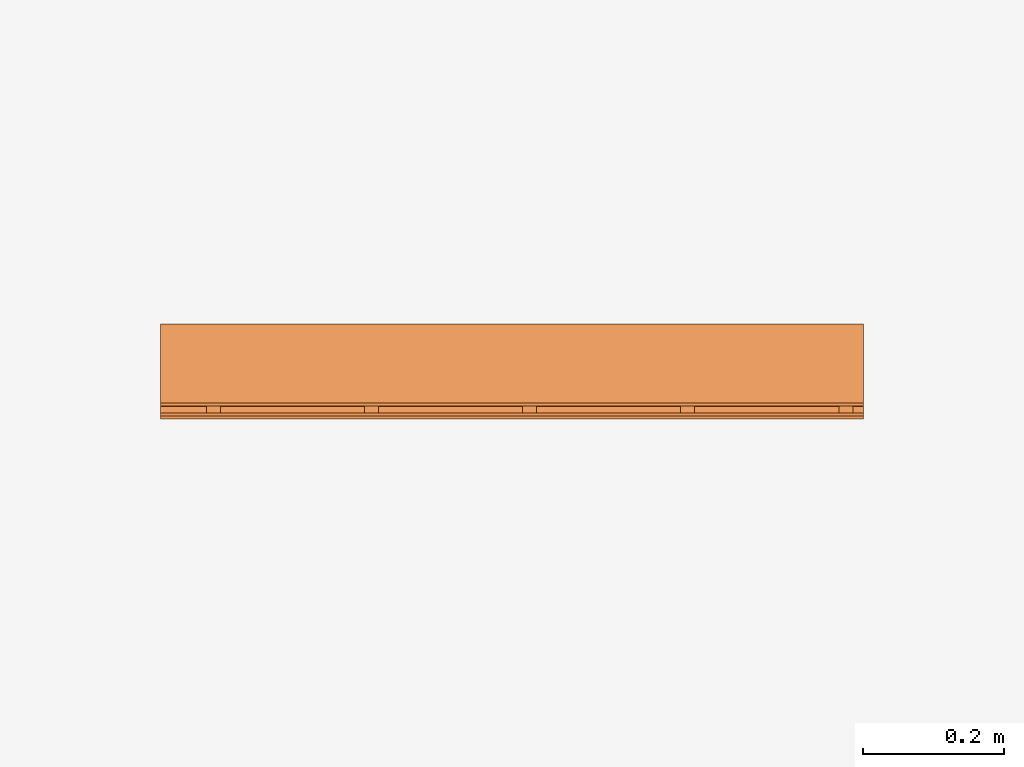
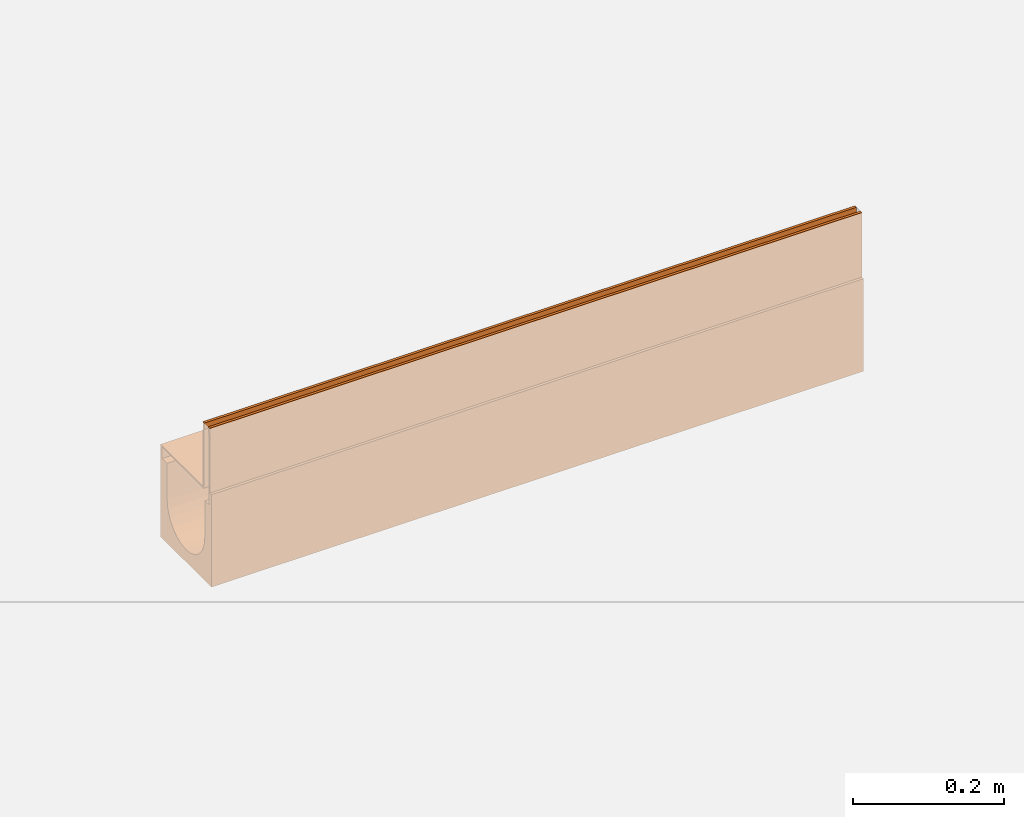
# One storey, part 2 of 2: 1 proxy.
"""IFC2X3 building model written with IfcOpenShell, lengths in millimetres."""

from ifc_helpers import new_model, entity, si_unit, converted_unit, direction, frame, origin, place, context, subcontext, project, spatial, faceted_brep, source, transform, mapped, material, material_list, element, save


model = new_model("IFC2X3")

# Units and contexts
model_context = context("Model", 3, precision=1e-06, world=origin(), true_north=direction((2.0, 6.12303176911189e-17, 1.0)))
context_of_model = context(None, 3, precision=1e-06, world=origin(), true_north=direction((2.0, 6.12303176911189e-17, 1.0)))
body_context = subcontext(model_context, "Body", "Model", "MODEL_VIEW")
ifc_project = project(units=[si_unit("LENGTHUNIT", "METRE", prefix="MILLI"), si_unit("AREAUNIT", "SQUARE_METRE", prefix="MILLI"), si_unit("VOLUMEUNIT", "CUBIC_METRE", prefix="MILLI"), converted_unit("PLANEANGLEUNIT", "DEGREE", entity("IfcRatioMeasure", 0.0174532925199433), si_unit("PLANEANGLEUNIT", "RADIAN"), dimensions=[0, 0, 0, 0, 0, 0, 0]), si_unit("TIMEUNIT", "SECOND")], contexts=[model_context, context_of_model])

# Site, building, storey
site_placement = place(None, origin())
site = spatial("IfcSite", under=ifc_project, at=site_placement, Name="Default", CompositionType="ELEMENT")
building_placement = place(site_placement, origin())
building = spatial("IfcBuilding", under=site, at=building_placement, CompositionType="ELEMENT")
storey_placement = place(building_placement, origin())
storey = spatial("IfcBuildingStorey", under=building, at=storey_placement, Name="Level 1", CompositionType="ELEMENT", Elevation=0.0)

# Proxy
ifc_material_1 = material(Name="Steel, Galvanized")
ifc_material_2 = material(Name="Vienite® Synthetic Resin Concrete")
ifc_material_list = material_list([ifc_material_1, ifc_material_2])
shared_shape = source(origin(), body_context, "Body", "Brep", [
    faceted_brep([(63.249999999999, 15.0, -107.0), (63.249999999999, 17.0, -109.0), (63.249999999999, 33.0, -109.0), (63.249999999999, 35.0, -107.0), (63.249999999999, 17.0, -123.499999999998), (63.249999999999, 15.0, -125.499999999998), (63.249999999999, 33.0, -123.499999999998), (63.249999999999, 35.0, -125.499999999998), (-61.250000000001, 15.0, -125.499999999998), (-61.250000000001, 17.0, -123.499999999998), (-61.250000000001, 33.0, -123.499999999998), (-61.250000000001, 35.0, -125.499999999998), (-61.250000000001, 17.0, -109.0), (-61.250000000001, 15.0, -107.0), (-61.250000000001, 33.0, -109.0), (-61.250000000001, 35.0, -107.0)], [[[0, 1, 2, 3]], [[4, 1, 0, 5]], [[3, 2, 6, 7]], [[6, 4, 5, 7]], [[8, 9, 10, 11]], [[12, 9, 8, 13]], [[11, 10, 14, 15]], [[14, 12, 13, 15]], [[5, 0, 13, 8]], [[7, 5, 8, 11]], [[3, 7, 11, 15]], [[0, 3, 15, 13]], [[1, 4, 9, 12]], [[14, 2, 1, 12]], [[6, 2, 14, 10]], [[9, 4, 6, 10]]]),
    faceted_brep([(-47.2500000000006, 0.0, -10.0), (-47.2500000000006, 0.0, -107.0), (-45.2500000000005, 0.0, -105.0), (-45.2500000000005, 0.0, 0.0), (-49.2500000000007, 0.0, 0.0), (-49.2500000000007, 0.0, -10.0), (63.2499999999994, 0.0, -107.0), (63.2499999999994, 0.0, -105.0), (-45.2500000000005, 1000.0, -105.0), (63.2499999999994, 1000.0, -105.0), (63.2499999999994, 1000.0, -107.0), (-47.2500000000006, 1000.0, -107.0), (-47.2500000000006, 1000.0, -10.0), (-45.2500000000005, 1000.0, 0.0), (-49.2500000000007, 1000.0, -10.0), (-49.2500000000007, 1000.0, 0.0)], [[[0, 1, 2, 3]], [[4, 5, 0, 3]], [[6, 7, 2, 1]], [[8, 9, 10, 11]], [[12, 13, 8, 11]], [[12, 14, 15, 13]], [[0, 5, 14, 12]], [[11, 1, 0, 12]], [[6, 1, 11, 10]], [[9, 7, 6, 10]], [[8, 2, 7, 9]], [[3, 2, 8, 13]], [[15, 4, 3, 13]], [[5, 4, 15, 14]]]),
    faceted_brep([(-59.2500000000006, 1000.0, 0.0), (-59.2500000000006, 1000.0, -10.0), (-61.2500000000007, 1000.0, -10.0), (-63.2500000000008, 1000.0, 0.0), (-63.2500000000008, 1000.0, -125.499999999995), (-61.2500000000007, 1000.0, -125.499999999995), (-61.2500000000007, 0.0, -10.0), (-63.2500000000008, 0.0, 0.0), (-63.2500000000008, 0.0, -125.499999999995), (-61.2500000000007, 0.0, -125.499999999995), (-59.2500000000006, 0.0, 0.0), (-59.2500000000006, 0.0, -10.0)], [[[0, 1, 2, 3]], [[4, 3, 2, 5]], [[6, 7, 8, 9]], [[10, 7, 6, 11]], [[9, 8, 4, 5]], [[6, 9, 5, 2]], [[11, 6, 2, 1]], [[10, 11, 1, 0]], [[3, 7, 10, 0]], [[4, 8, 7, 3]]]),
    faceted_brep([(63.2499999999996, 465.0, -107.0), (63.2499999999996, 467.0, -109.0), (63.2499999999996, 483.0, -109.0), (63.2499999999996, 485.0, -107.0), (63.2499999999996, 467.0, -123.499999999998), (63.2499999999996, 465.0, -125.499999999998), (63.2499999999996, 483.0, -123.499999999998), (63.2499999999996, 485.0, -125.499999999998), (-61.2500000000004, 465.0, -125.499999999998), (-61.2500000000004, 467.0, -123.499999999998), (-61.2500000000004, 483.0, -123.499999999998), (-61.2500000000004, 485.0, -125.499999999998), (-61.2500000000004, 467.0, -109.0), (-61.2500000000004, 465.0, -107.0), (-61.2500000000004, 483.0, -109.0), (-61.2500000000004, 485.0, -107.0)], [[[0, 1, 2, 3]], [[4, 1, 0, 5]], [[3, 2, 6, 7]], [[6, 4, 5, 7]], [[8, 9, 10, 11]], [[12, 9, 8, 13]], [[11, 10, 14, 15]], [[14, 12, 13, 15]], [[5, 0, 13, 8]], [[7, 5, 8, 11]], [[3, 7, 11, 15]], [[0, 3, 15, 13]], [[1, 4, 9, 12]], [[2, 1, 12, 14]], [[6, 2, 14, 10]], [[4, 6, 10, 9]]]),
    faceted_brep([(63.2499999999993, 240.0, -107.0), (63.2499999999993, 242.0, -109.0), (63.2499999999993, 258.0, -109.0), (63.2499999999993, 260.0, -107.0), (63.2499999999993, 242.0, -123.499999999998), (63.2499999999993, 240.0, -125.499999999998), (63.2499999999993, 258.0, -123.499999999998), (63.2499999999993, 260.0, -125.499999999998), (-61.2500000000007, 240.0, -125.499999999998), (-61.2500000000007, 242.0, -123.499999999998), (-61.2500000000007, 258.0, -123.499999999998), (-61.2500000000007, 260.0, -125.499999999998), (-61.2500000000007, 242.0, -109.0), (-61.2500000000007, 240.0, -107.0), (-61.2500000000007, 258.0, -109.0), (-61.2500000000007, 260.0, -107.0)], [[[0, 1, 2, 3]], [[4, 1, 0, 5]], [[3, 2, 6, 7]], [[6, 4, 5, 7]], [[8, 9, 10, 11]], [[12, 9, 8, 13]], [[11, 10, 14, 15]], [[14, 12, 13, 15]], [[5, 0, 13, 8]], [[7, 5, 8, 11]], [[3, 7, 11, 15]], [[0, 3, 15, 13]], [[1, 4, 9, 12]], [[2, 1, 12, 14]], [[6, 2, 14, 10]], [[4, 6, 10, 9]]]),
    faceted_brep([(63.2500000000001, 915.0, -107.0), (63.2500000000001, 917.0, -109.0), (63.2500000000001, 933.0, -109.0), (63.2500000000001, 935.0, -107.0), (63.2500000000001, 917.0, -123.499999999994), (63.2500000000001, 915.0, -125.499999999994), (63.2500000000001, 933.0, -123.499999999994), (63.2500000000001, 935.0, -125.499999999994), (-61.2499999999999, 915.0, -125.499999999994), (-61.2499999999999, 917.0, -123.499999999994), (-61.2499999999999, 933.0, -123.499999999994), (-61.2499999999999, 935.0, -125.499999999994), (-61.2499999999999, 917.0, -109.0), (-61.2499999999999, 915.0, -107.0), (-61.2499999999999, 933.0, -109.0), (-61.2499999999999, 935.0, -107.0)], [[[0, 1, 2, 3]], [[4, 1, 0, 5]], [[3, 2, 6, 7]], [[6, 4, 5, 7]], [[8, 9, 10, 11]], [[12, 9, 8, 13]], [[11, 10, 14, 15]], [[14, 12, 13, 15]], [[5, 0, 13, 8]], [[11, 7, 5, 8]], [[3, 7, 11, 15]], [[13, 0, 3, 15]], [[1, 4, 9, 12]], [[2, 1, 12, 14]], [[6, 2, 14, 10]], [[4, 6, 10, 9]]]),
    faceted_brep([(63.2499999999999, 690.0, -107.0), (63.2499999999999, 692.0, -109.0), (63.2499999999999, 708.0, -109.0), (63.2499999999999, 710.0, -107.0), (63.2499999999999, 692.0, -123.499999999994), (63.2499999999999, 690.0, -125.499999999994), (63.2499999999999, 708.0, -123.499999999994), (63.2499999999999, 710.0, -125.499999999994), (-61.2500000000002, 690.0, -125.499999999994), (-61.2500000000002, 692.0, -123.499999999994), (-61.2500000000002, 708.0, -123.499999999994), (-61.2500000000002, 710.0, -125.499999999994), (-61.2500000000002, 692.0, -109.0), (-61.2500000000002, 690.0, -107.0), (-61.2500000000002, 708.0, -109.0), (-61.2500000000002, 710.0, -107.0)], [[[0, 1, 2, 3]], [[4, 1, 0, 5]], [[3, 2, 6, 7]], [[6, 4, 5, 7]], [[8, 9, 10, 11]], [[12, 9, 8, 13]], [[11, 10, 14, 15]], [[14, 12, 13, 15]], [[5, 0, 13, 8]], [[11, 7, 5, 8]], [[3, 7, 11, 15]], [[13, 0, 3, 15]], [[1, 4, 9, 12]], [[2, 1, 12, 14]], [[6, 2, 14, 10]], [[4, 6, 10, 9]]]),
    faceted_brep([(63.2499999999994, 1000.0, -125.500000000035), (63.2499999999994, 1000.0, -105.0), (67.5000000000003, 1000.0, -105.0), (67.5000000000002, 1000.0, -255.0), (50.0, 1000.0, -185.0), (50.0, 1000.0, -125.50000000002), (48.2962913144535, 1000.0, -197.9409522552), (-67.4999999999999, 1000.0, -105.0), (-63.2499999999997, 1000.0, -105.0), (-63.2500000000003, 1000.0, -125.500000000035), (-67.4999999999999, 1000.0, -255.0), (-50.0, 1000.0, -125.500000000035), (-50.0, 1000.0, -185.0), (35.3553390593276, 1000.0, -220.355339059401), (43.3012701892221, 1000.0, -210.0), (25.0, 1000.0, -228.301270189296), (0.0, 1000.0, -235.0), (12.9409522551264, 1000.0, -233.296291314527), (-43.3012701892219, 1000.0, -210.0), (-35.3553390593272, 1000.0, -220.355339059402), (-48.2962913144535, 1000.0, -197.9409522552), (-25.0, 1000.0, -228.301270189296), (-12.9409522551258, 1000.0, -233.296291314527), (67.5000000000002, 0.0, -255.0), (12.9409522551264, 0.0, -233.296291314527), (0.0, 0.0, -235.0), (25.0, 0.0, -228.301270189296), (35.3553390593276, 0.0, -220.355339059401), (43.3012701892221, 0.0, -210.0), (48.2962913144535, 0.0, -197.9409522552), (-12.9409522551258, 0.0, -233.296291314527), (-67.4999999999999, 0.0, -255.0), (-25.0, 0.0, -228.301270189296), (-35.3553390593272, 0.0, -220.355339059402), (-43.3012701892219, 0.0, -210.0), (-48.2962913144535, 0.0, -197.9409522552), (50.0, 0.0, -185.0), (63.2499999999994, 0.0, -125.500000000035), (50.0, 0.0, -125.50000000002), (67.5000000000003, 0.0, -105.0), (63.2499999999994, 0.0, -105.0), (-50.0, 0.0, -185.0), (-50.0, 0.0, -125.500000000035), (-63.2500000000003, 0.0, -125.500000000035), (-63.2499999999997, 0.0, -105.0), (-67.4999999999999, 0.0, -105.0), (-14.2350474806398, 46.8740795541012, -255.0), (0.0, 45.0, -255.0), (-27.5000000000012, 52.3686027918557, -255.0), (-53.1259204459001, 85.764952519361, -255.0), (-47.6313972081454, 72.4999999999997, -255.0), (-38.8908729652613, 61.1091270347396, -255.0), (-55.0, 100.0, -255.0), (14.2350474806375, 46.8740795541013, -255.0), (27.4999999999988, 52.368602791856, -255.0), (38.8908729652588, 61.1091270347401, -255.0), (47.6313972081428, 72.5000000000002, -255.0), (53.1259204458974, 85.7649525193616, -255.0), (55.0, 100.0, -255.0), (-53.1259204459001, 114.235047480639, -255.0), (-47.6313972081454, 127.5, -255.0), (-38.8908729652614, 138.89087296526, -255.0), (-27.5000000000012, 147.631397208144, -255.0), (-14.2350474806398, 153.125920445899, -255.0), (0.0, 155.0, -255.0), (47.6313972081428, 127.5, -255.0), (38.8908729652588, 138.89087296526, -255.0), (53.1259204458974, 114.235047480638, -255.0), (14.2350474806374, 153.125920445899, -255.0), (27.4999999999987, 147.631397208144, -255.0), (50.0, 506.19841967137, -185.0), (46.1939766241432, 500.0, -204.134171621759), (49.0497740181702, 358.621493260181, -194.701529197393), (49.0264357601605, 678.388895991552, -194.818787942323), (-6.52630961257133, 292.558308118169, -234.572243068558), (-19.1341716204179, 500.0, -231.193976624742), (19.134171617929, 641.496825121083, -231.193976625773), (19.1341716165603, 292.558308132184, -231.19397662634), (30.4380714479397, 500.0, -224.667667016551), (39.6676670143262, 707.441691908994, -215.438071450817), (39.6676670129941, 358.503174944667, -215.438071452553), (6.52630961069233, 500.0, -234.572243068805), (-30.4380714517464, 358.503174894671, -224.66766701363), (-6.52630961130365, 641.496825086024, -234.572243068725), (-49.0392640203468, 359.812526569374, -194.75451609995), (-49.0392640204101, 677.664550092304, -194.754516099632), (-50.0, 500.0, -185.0), (-30.4380714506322, 707.441691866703, -224.667667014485), (-46.193976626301, 500.0, -204.134171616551), (-39.6676670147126, 641.496825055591, -215.438071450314), (-39.6676670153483, 292.55830810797, -215.438071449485), (-27.5000000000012, 147.631397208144, -245.0), (-14.2350474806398, 153.125920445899, -245.0), (0.0, 155.0, -245.0), (14.2350474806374, 153.125920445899, -245.0), (-38.8908729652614, 138.89087296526, -245.0), (-47.6313972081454, 127.5, -245.0), (-55.0, 100.0, -245.0), (-53.1259204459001, 114.235047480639, -245.0), (47.6313972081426, 72.4999999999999, -245.0), (27.4999999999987, 147.631397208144, -245.0), (53.1259204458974, 114.235047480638, -245.0), (55.0, 100.0, -245.0), (47.6313972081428, 127.5, -245.0), (38.8908729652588, 138.89087296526, -245.0), (-47.6313972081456, 72.5, -245.0), (-27.5000000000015, 52.3686027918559, -245.0), (-38.8908729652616, 61.1091270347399, -245.0), (0.0, 45.0, -245.0), (-14.2350474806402, 46.8740795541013, -245.0), (38.8908729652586, 61.1091270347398, -245.0), (53.1259204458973, 85.7649525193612, -245.0), (27.4999999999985, 52.3686027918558, -245.0), (14.2350474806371, 46.8740795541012, -245.0), (-53.1259204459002, 85.7649525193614, -245.0)], [[[0, 1, 2, 3]], [[4, 5, 0, 3]], [[6, 4, 3]], [[7, 8, 9, 10]], [[9, 11, 12, 10]], [[13, 14, 3]], [[15, 13, 3]], [[16, 17, 3, 10]], [[3, 17, 15]], [[14, 6, 3]], [[18, 19, 10]], [[20, 18, 10]], [[21, 22, 10]], [[10, 22, 16]], [[21, 10, 19]], [[20, 10, 12]], [[23, 24, 25]], [[24, 23, 26]], [[27, 26, 23]], [[28, 27, 23]], [[23, 29, 28]], [[25, 30, 31, 23]], [[31, 30, 32]], [[33, 34, 31]], [[32, 33, 31]], [[31, 34, 35]], [[36, 29, 23, 37]], [[38, 36, 37]], [[39, 40, 37, 23]], [[41, 42, 43, 31]], [[43, 44, 45, 31]], [[31, 35, 41]], [[8, 44, 43, 9]], [[7, 45, 44, 8]], [[31, 45, 7, 10]], [[31, 46, 47, 23]], [[46, 31, 48]], [[49, 50, 31]], [[51, 48, 31]], [[50, 51, 31]], [[31, 52, 49]], [[23, 53, 54]], [[53, 23, 47]], [[23, 54, 55]], [[55, 56, 23]], [[57, 58, 23]], [[56, 57, 23]], [[23, 58, 3]], [[10, 59, 52, 31]], [[60, 59, 10]], [[61, 10, 62]], [[10, 61, 60]], [[63, 62, 10]], [[64, 63, 10, 3]], [[65, 66, 3]], [[67, 65, 3]], [[68, 64, 3]], [[69, 3, 66]], [[3, 69, 68]], [[67, 3, 58]], [[2, 39, 23, 3]], [[1, 40, 39, 2]], [[37, 40, 1, 0]], [[5, 38, 37, 0]], [[36, 38, 5]], [[5, 4, 70, 36]], [[71, 72, 73]], [[30, 74, 75]], [[76, 77, 78]], [[71, 73, 6]], [[26, 27, 78]], [[13, 78, 79]], [[80, 78, 27]], [[80, 28, 71]], [[24, 77, 81]], [[77, 24, 26]], [[72, 29, 36]], [[73, 70, 4]], [[77, 76, 81]], [[71, 28, 29]], [[15, 17, 76]], [[79, 14, 13]], [[82, 33, 32]], [[80, 71, 79]], [[15, 76, 78]], [[24, 81, 25]], [[17, 16, 81]], [[15, 78, 13]], [[74, 83, 75]], [[83, 74, 81]], [[32, 30, 75]], [[84, 85, 86, 41]], [[19, 87, 21]], [[82, 32, 75]], [[35, 34, 88]], [[83, 22, 75]], [[25, 81, 74]], [[89, 88, 90]], [[90, 34, 33]], [[30, 25, 74]], [[22, 83, 16]], [[20, 12, 85]], [[83, 81, 16]], [[80, 27, 28]], [[87, 82, 75]], [[26, 78, 77]], [[18, 88, 89]], [[89, 19, 18]], [[14, 71, 6]], [[20, 85, 88]], [[20, 88, 18]], [[76, 17, 81]], [[19, 89, 87]], [[90, 33, 82]], [[21, 75, 22]], [[21, 87, 75]], [[82, 87, 89, 90]], [[34, 90, 88]], [[14, 79, 71]], [[80, 79, 78]], [[6, 73, 4]], [[70, 73, 72]], [[70, 72, 36]], [[72, 71, 29]], [[88, 85, 84]], [[86, 85, 12]], [[84, 35, 88]], [[35, 84, 41]], [[42, 41, 86, 12]], [[12, 11, 42]], [[43, 42, 11, 9]], [[91, 92, 93, 94]], [[95, 91, 94, 96]], [[97, 98, 96, 99]], [[99, 96, 94, 100]], [[101, 102, 100, 103]], [[104, 103, 100]], [[105, 97, 99, 106]], [[107, 105, 106]], [[108, 109, 106, 110]], [[102, 111, 99, 100]], [[108, 110, 112, 113]], [[106, 99, 110]], [[114, 97, 105]], [[101, 67, 58, 102]], [[103, 65, 67, 101]], [[100, 69, 66, 104]], [[104, 66, 65, 103]], [[94, 68, 69, 100]], [[68, 94, 93, 64]], [[92, 63, 64, 93]], [[91, 62, 63, 92]], [[96, 60, 61, 95]], [[95, 61, 62, 91]], [[98, 59, 60, 96]], [[59, 98, 97, 52]], [[114, 49, 52, 97]], [[105, 50, 49, 114]], [[106, 48, 51, 107]], [[107, 51, 50, 105]], [[109, 46, 48, 106]], [[46, 109, 108, 47]], [[113, 53, 47, 108]], [[112, 54, 53, 113]], [[99, 56, 55, 110]], [[110, 55, 54, 112]], [[111, 57, 56, 99]], [[57, 111, 102, 58]]]),
])
proxy_placement = place(storey_placement, frame((143.656586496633, 99.9218925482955, 0.0), z_axis=(0.0, 0.0, 1.0), x_axis=(0.0, 1.0, 0.0)))
element("IfcBuildingElementProxy", 1, at=proxy_placement, inside=storey, material=ifc_material_list, Name="Civil-Drainage-Channel-ACO-MultiDrain-M100D-Brickslot-Channel-System:23000 - No 0.0 Constant Depth Channel - 1000mm LG - Invert Depth 130mm:23000 - No 0.0 Constant Depth Channel - 1000mm LG - Invert Depth 130mm", ObjectType="23000 - No 0.0 Constant Depth Channel - 1000mm LG - Invert Depth 130mm", CompositionType="ELEMENT", context=body_context, shape_type="MappedRepresentation", body=[
    mapped(shared_shape, transform((0.0, 0.0, 0.0), scale=1.0)),
])

save(model, "model.ifc")
